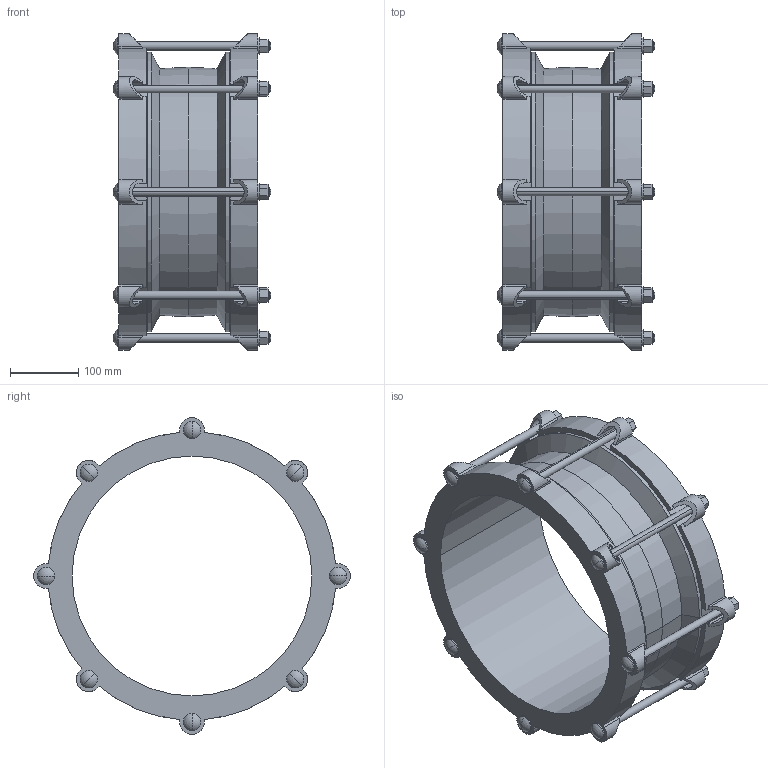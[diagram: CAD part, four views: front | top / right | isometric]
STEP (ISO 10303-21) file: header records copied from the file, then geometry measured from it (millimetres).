
FILE_DESCRIPTION((''),'2;1');
FILE_NAME('BIM_12393_14','2018-09-07T',('MReader'),(''),'CREO PARAMETRIC BY PTC INC, 2016130','CREO PARAMETRIC BY PTC INC, 2016130','');
FILE_SCHEMA(('CONFIG_CONTROL_DESIGN'));
Length unit declared in the file: millimetre
Products named in the file (1): BIM_12393_14
Bounding box: 230.33 x 462.5 x 462.5 mm (x, y, z)
Volume: 5170458.3 mm3; surface area: 759870 mm2
Topology: 1 solids, 1 shells, 374 faces, 1020 edges, 650 vertices
Faces by surface type: plane 196, cylinder 122, sphere 32, cone 24
Entity records: 12176 total; most frequent: CARTESIAN_POINT 2676, DIRECTION 1986, ORIENTED_EDGE 1976, EDGE_CURVE 988, AXIS2_PLACEMENT_3D 720, VERTEX_POINT 650, VECTOR 546, LINE 546
